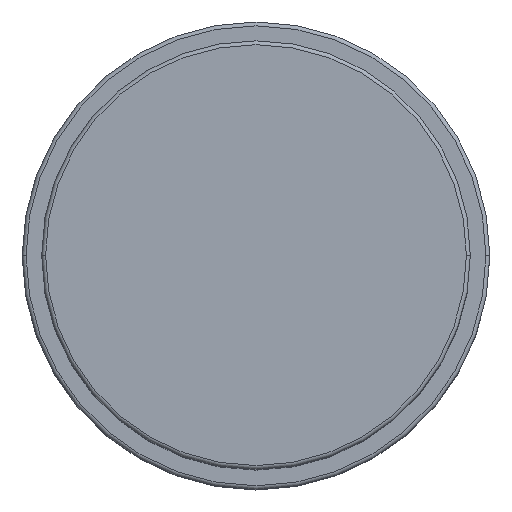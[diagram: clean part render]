
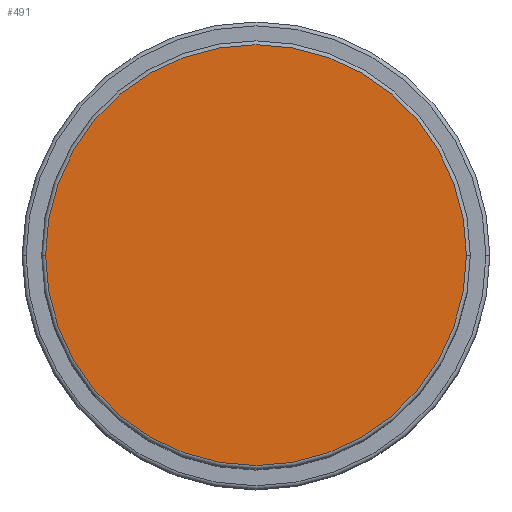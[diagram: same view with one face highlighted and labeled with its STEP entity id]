
A CAD part, top view. The second image highlights one B-rep face of the part: STEP entity #491.
In plain terms, the highlighted planar face has unit normal (0, 0, 1).
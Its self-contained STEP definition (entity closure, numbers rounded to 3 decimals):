
#34 = DIRECTION ( 'NONE',  ( 0., 0., 1. ) ) ;
#111 = ORIENTED_EDGE ( 'NONE', *, *, #806, .T. ) ;
#152 = PLANE ( 'NONE',  #772 ) ;
#157 = CIRCLE ( 'NONE', #514, 27. ) ;
#230 = AXIS2_PLACEMENT_3D ( 'NONE', #318, #34, #1093 ) ;
#318 = CARTESIAN_POINT ( 'NONE',  ( 0., 0., 76. ) ) ;
#370 = CARTESIAN_POINT ( 'NONE',  ( 27., 0., 76. ) ) ;
#435 = CIRCLE ( 'NONE', #230, 27. ) ;
#491 = ADVANCED_FACE ( 'NONE', ( #668 ), #152, .T. ) ;
#514 = AXIS2_PLACEMENT_3D ( 'NONE', #559, #1363, #965 ) ;
#532 = EDGE_LOOP ( 'NONE', ( #1620, #111 ) ) ;
#559 = CARTESIAN_POINT ( 'NONE',  ( 0., 0., 76. ) ) ;
#611 = VERTEX_POINT ( 'NONE', #370 ) ;
#668 = FACE_OUTER_BOUND ( 'NONE', #532, .T. ) ;
#772 = AXIS2_PLACEMENT_3D ( 'NONE', #1068, #1347, #1483 ) ;
#806 = EDGE_CURVE ( 'NONE', #1727, #611, #157, .T. ) ;
#965 = DIRECTION ( 'NONE',  ( 1., 0., 0. ) ) ;
#1068 = CARTESIAN_POINT ( 'NONE',  ( 0., 0., 76. ) ) ;
#1093 = DIRECTION ( 'NONE',  ( 1., 0., 0. ) ) ;
#1097 = EDGE_CURVE ( 'NONE', #611, #1727, #435, .T. ) ;
#1347 = DIRECTION ( 'NONE',  ( 0., 0., 1. ) ) ;
#1362 = CARTESIAN_POINT ( 'NONE',  ( -27., 0., 76. ) ) ;
#1363 = DIRECTION ( 'NONE',  ( 0., 0., 1. ) ) ;
#1483 = DIRECTION ( 'NONE',  ( 1., 0., 0. ) ) ;
#1620 = ORIENTED_EDGE ( 'NONE', *, *, #1097, .T. ) ;
#1727 = VERTEX_POINT ( 'NONE', #1362 ) ;
